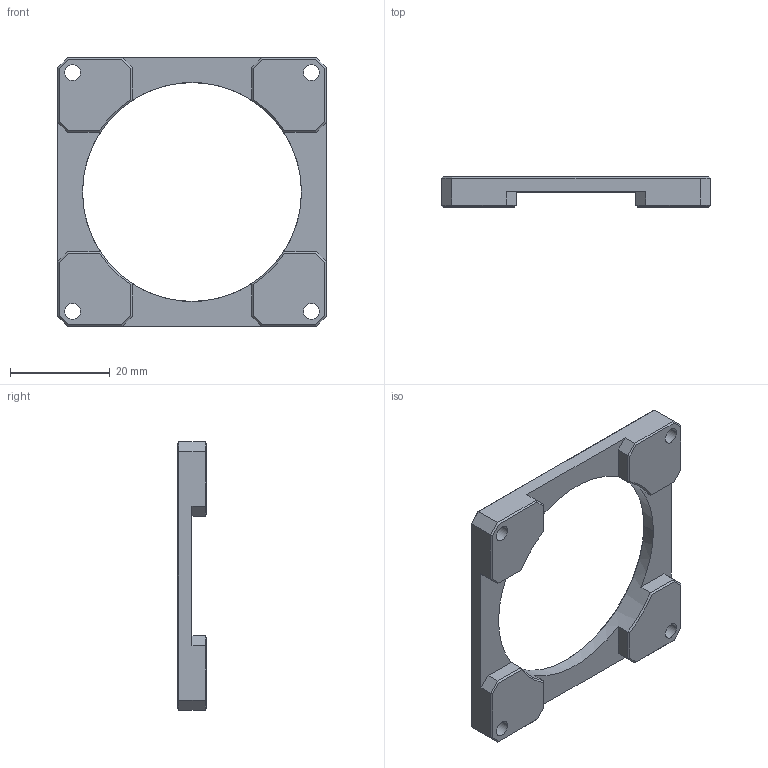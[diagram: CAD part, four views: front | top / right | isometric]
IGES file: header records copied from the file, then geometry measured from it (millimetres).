
Start section:  PTC IGES file: cncp_nx05_spacer_6_0.igs
Global section: file name: cncp_nx05_spacer_6_0.igs; native system: Pro/ENGINEER by Parametric Technology Corporation; preprocessor: 2011220; author: JK; organization: Unknown; date: 20140109.141219; units: millimetre
Bounding box: 54 x 6 x 54 mm (x, y, z)
Volume: 6289.4 mm3; surface area: 4534.7 mm2
Topology: 1 solids, 1 shells, 85 faces, 210 edges, 126 vertices
Faces by surface type: bspline 69, revolution 16
